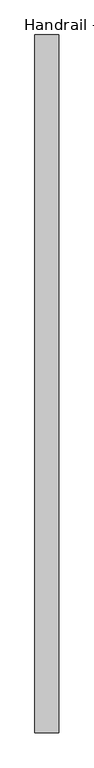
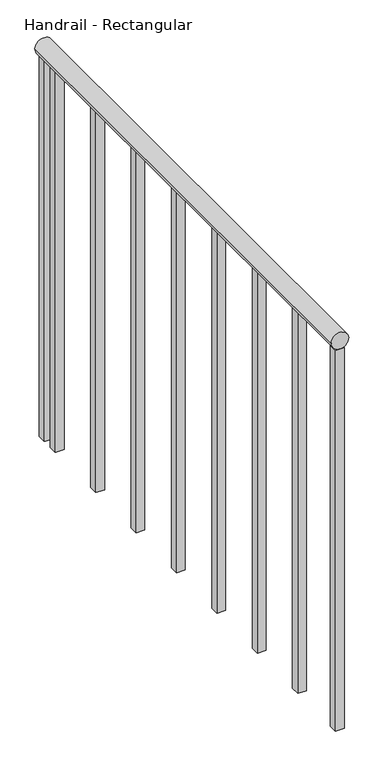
"""IFC4 building model written with IfcOpenShell, lengths in millimetres: railing geometry, Handrail - Rectangular."""

from ifc_helpers import new_model, si_unit, point, frame, frame_2d, origin, place, context, project, spatial, polyline, circle_curve, trimmed, segment, composite_curve, outline, extrude, source, transform, mapped, element, save


def handrail_rectangular_9811aab8(model_context):
    return source(origin(), model_context, "Body", "SweptSolid", [
        extrude(outline(composite_curve([segment(trimmed(circle_curve(frame_2d((10039.35, -11418.8589563)), 19.05), [point((10039.35, -11399.8089563))], [point((10039.35, -11437.9089563))], False, "CARTESIAN"), True, "CONTINUOUS"), segment(trimmed(circle_curve(frame_2d((10039.35, -11418.8589563)), 19.05), [point((10039.35, -11437.9089563))], [point((10039.35, -11399.8089563))], False, "CARTESIAN"), True, "CONTINUOUS")], self_intersect=False)), frame((0.0, -35349.9683133, 0.0), z_axis=(0.0, 1.0, 0.0), x_axis=(0.0, 0.0, 1.0)), (0.0, 0.0, 1.0), 1117.6),
        extrude(outline(polyline([(-11428.3839563, -34292.6933133), (-11428.3839563, -34273.6433133), (-11409.3339563, -34273.6433133), (-11409.3339563, -34292.6933133), (-11428.3839563, -34292.6933133)])), frame((0.0, 0.0, 9144.0), z_axis=(0.0, 0.0, 1.0), x_axis=(1.0, 0.0, 0.0)), (0.0, 0.0, 1.0), 876.3),
        extrude(outline(polyline([(-11428.3839563, -34445.0933133), (-11428.3839563, -34426.0433133), (-11409.3339563, -34426.0433133), (-11409.3339563, -34445.0933133), (-11428.3839563, -34445.0933133)])), frame((0.0, 0.0, 9144.0), z_axis=(0.0, 0.0, 1.0), x_axis=(1.0, 0.0, 0.0)), (0.0, 0.0, 1.0), 876.3),
        extrude(outline(polyline([(-11428.3839563, -34597.4933133), (-11428.3839563, -34578.4433133), (-11409.3339563, -34578.4433133), (-11409.3339563, -34597.4933133), (-11428.3839563, -34597.4933133)])), frame((0.0, 0.0, 9144.0), z_axis=(0.0, 0.0, 1.0), x_axis=(1.0, 0.0, 0.0)), (0.0, 0.0, 1.0), 876.3),
        extrude(outline(polyline([(-11428.3839563, -34749.8933133), (-11428.3839563, -34730.8433133), (-11409.3339563, -34730.8433133), (-11409.3339563, -34749.8933133), (-11428.3839563, -34749.8933133)])), frame((0.0, 0.0, 9144.0), z_axis=(0.0, 0.0, 1.0), x_axis=(1.0, 0.0, 0.0)), (0.0, 0.0, 1.0), 876.3),
        extrude(outline(polyline([(-11428.3839563, -34902.2933133), (-11428.3839563, -34883.2433133), (-11409.3339563, -34883.2433133), (-11409.3339563, -34902.2933133), (-11428.3839563, -34902.2933133)])), frame((0.0, 0.0, 9144.0), z_axis=(0.0, 0.0, 1.0), x_axis=(1.0, 0.0, 0.0)), (0.0, 0.0, 1.0), 876.3),
        extrude(outline(polyline([(-11428.3839563, -35054.6933133), (-11428.3839563, -35035.6433133), (-11409.3339563, -35035.6433133), (-11409.3339563, -35054.6933133), (-11428.3839563, -35054.6933133)])), frame((0.0, 0.0, 9144.0), z_axis=(0.0, 0.0, 1.0), x_axis=(1.0, 0.0, 0.0)), (0.0, 0.0, 1.0), 876.3),
        extrude(outline(polyline([(-11428.3839563, -35207.0933133), (-11428.3839563, -35188.0433133), (-11409.3339563, -35188.0433133), (-11409.3339563, -35207.0933133), (-11428.3839563, -35207.0933133)])), frame((0.0, 0.0, 9144.0), z_axis=(0.0, 0.0, 1.0), x_axis=(1.0, 0.0, 0.0)), (0.0, 0.0, 1.0), 876.3),
        extrude(outline(polyline([(-11428.3839563, -34251.4183133), (-11428.3839563, -34232.3683133), (-11409.3339563, -34232.3683133), (-11409.3339563, -34251.4183133), (-11428.3839563, -34251.4183133)])), frame((0.0, 0.0, 9144.0), z_axis=(0.0, 0.0, 1.0), x_axis=(1.0, 0.0, 0.0)), (0.0, 0.0, 1.0), 876.3),
        extrude(outline(polyline([(-11428.3839563, -35349.9683133), (-11428.3839563, -35330.9183133), (-11409.3339563, -35330.9183133), (-11409.3339563, -35349.9683133), (-11428.3839563, -35349.9683133)])), frame((0.0, 0.0, 9144.0), z_axis=(0.0, 0.0, 1.0), x_axis=(1.0, 0.0, 0.0)), (0.0, 0.0, 1.0), 876.3),
    ])


if __name__ == "__main__":
    model = new_model("IFC4")
    model_context = context("Model", 3, world=origin())
    ifc_project = project(units=[si_unit("LENGTHUNIT", "METRE", prefix="MILLI")], contexts=[model_context])
    site = spatial("IfcSite", under=ifc_project)
    building = spatial("IfcBuilding", under=site)
    placement = place(None, origin())
    handrail_rectangular_shape = handrail_rectangular_9811aab8(model_context)
    element("IfcRailing", 1, ObjectType="Handrail - Rectangular", at=placement, inside=building, context=model_context, shape_type="MappedRepresentation", body=[
        mapped(handrail_rectangular_shape, transform((0.0, 0.0, 0.0), x_axis=(1.0, 0.0, 0.0), y_axis=(0.0, 1.0, 0.0), z_axis=(0.0, 0.0, 1.0))),
    ])
    save(model, "model.ifc")
